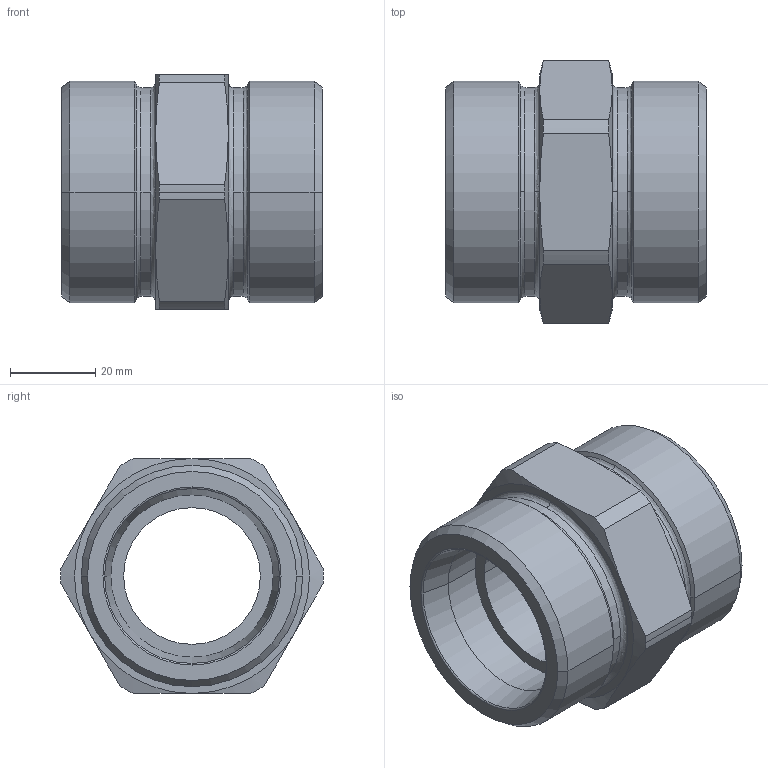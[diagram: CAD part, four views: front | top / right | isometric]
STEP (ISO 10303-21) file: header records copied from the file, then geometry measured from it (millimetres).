
FILE_DESCRIPTION((''),'2;1');
FILE_NAME('103523.stp','2007-10-31T11:32:17',(''),(''),'AutoCAD STEP 2000i','AutoCAD 2000i',', , ');
FILE_SCHEMA(('CONFIG_CONTROL_DESIGN'));
Length unit declared in the file: millimetre
Products named in the file (2): 103523.0; CHIAVE SMUSSATA#0
Assembly tree (1 placements, depth 2):
  103523.0
    CHIAVE SMUSSATA#0
Bounding box: 61 x 61.5 x 55 mm (x, y, z)
Volume: 73495.8 mm3; surface area: 20401.9 mm2
Topology: 1 solids, 1 shells, 70 faces, 172 edges, 108 vertices
Faces by surface type: cone 24, cylinder 22, plane 12, bspline 8, torus 4
Entity records: 2513 total; most frequent: CARTESIAN_POINT 752, DIRECTION 384, ORIENTED_EDGE 344, AXIS2_PLACEMENT_3D 172, EDGE_CURVE 172, VERTEX_POINT 108, CIRCLE 108, EDGE_LOOP 76
